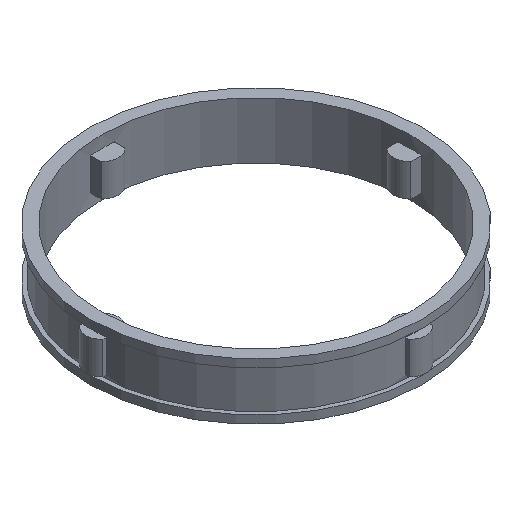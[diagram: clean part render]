
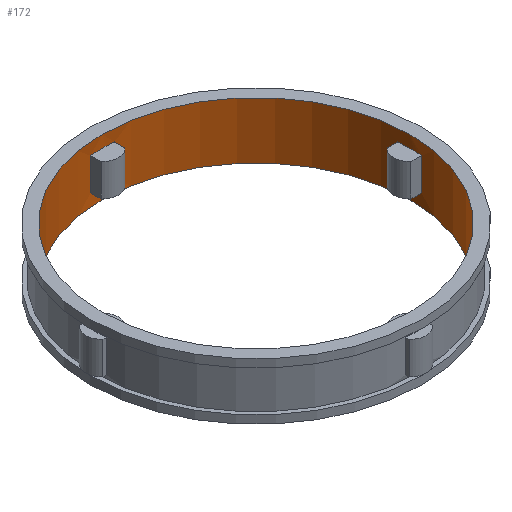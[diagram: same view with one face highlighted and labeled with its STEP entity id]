
A CAD part, isometric view. The second image highlights one B-rep face of the part: STEP entity #172.
In plain terms, the highlighted cylindrical face has radius 19 mm (diameter 38 mm), a full revolution.
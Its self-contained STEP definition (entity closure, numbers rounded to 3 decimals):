
#172=ADVANCED_FACE('',(#365,#366,#367,#368,#369,#370),#220,.F.);
#220=CYLINDRICAL_SURFACE('',#893,19.);
#239=LINE('',#1247,#303);
#240=LINE('',#1251,#304);
#241=LINE('',#1255,#305);
#242=LINE('',#1259,#306);
#243=LINE('',#1263,#307);
#244=LINE('',#1267,#308);
#245=LINE('',#1268,#309);
#246=LINE('',#1273,#310);
#303=VECTOR('',#998,1.);
#304=VECTOR('',#1001,1.);
#305=VECTOR('',#1004,1.);
#306=VECTOR('',#1007,1.);
#307=VECTOR('',#1010,1.);
#308=VECTOR('',#1013,1.);
#309=VECTOR('',#1014,1.);
#310=VECTOR('',#1017,1.);
#365=FACE_BOUND('',#389,.T.);
#366=FACE_BOUND('',#390,.T.);
#367=FACE_BOUND('',#391,.T.);
#368=FACE_BOUND('',#392,.T.);
#369=FACE_BOUND('',#393,.T.);
#370=FACE_BOUND('',#394,.T.);
#389=EDGE_LOOP('',(#465));
#390=EDGE_LOOP('',(#466));
#391=EDGE_LOOP('',(#467,#468,#469,#470));
#392=EDGE_LOOP('',(#471,#472,#473,#474));
#393=EDGE_LOOP('',(#475,#476,#477,#478));
#394=EDGE_LOOP('',(#479,#480,#481,#482));
#465=ORIENTED_EDGE('',*,*,#745,.F.);
#466=ORIENTED_EDGE('',*,*,#746,.T.);
#467=ORIENTED_EDGE('',*,*,#747,.F.);
#468=ORIENTED_EDGE('',*,*,#748,.T.);
#469=ORIENTED_EDGE('',*,*,#749,.T.);
#470=ORIENTED_EDGE('',*,*,#750,.T.);
#471=ORIENTED_EDGE('',*,*,#751,.F.);
#472=ORIENTED_EDGE('',*,*,#752,.T.);
#473=ORIENTED_EDGE('',*,*,#753,.T.);
#474=ORIENTED_EDGE('',*,*,#754,.T.);
#475=ORIENTED_EDGE('',*,*,#755,.F.);
#476=ORIENTED_EDGE('',*,*,#756,.T.);
#477=ORIENTED_EDGE('',*,*,#757,.T.);
#478=ORIENTED_EDGE('',*,*,#758,.T.);
#479=ORIENTED_EDGE('',*,*,#759,.F.);
#480=ORIENTED_EDGE('',*,*,#760,.T.);
#481=ORIENTED_EDGE('',*,*,#761,.F.);
#482=ORIENTED_EDGE('',*,*,#762,.F.);
#673=VERTEX_POINT('',#1241);
#674=VERTEX_POINT('',#1243);
#675=VERTEX_POINT('',#1245);
#676=VERTEX_POINT('',#1246);
#677=VERTEX_POINT('',#1248);
#678=VERTEX_POINT('',#1250);
#679=VERTEX_POINT('',#1253);
#680=VERTEX_POINT('',#1254);
#681=VERTEX_POINT('',#1256);
#682=VERTEX_POINT('',#1258);
#683=VERTEX_POINT('',#1261);
#684=VERTEX_POINT('',#1262);
#685=VERTEX_POINT('',#1264);
#686=VERTEX_POINT('',#1266);
#687=VERTEX_POINT('',#1269);
#688=VERTEX_POINT('',#1270);
#689=VERTEX_POINT('',#1272);
#690=VERTEX_POINT('',#1274);
#745=EDGE_CURVE('',#673,#673,#841,.T.);
#746=EDGE_CURVE('',#674,#674,#842,.T.);
#747=EDGE_CURVE('',#675,#676,#843,.T.);
#748=EDGE_CURVE('',#675,#677,#239,.T.);
#749=EDGE_CURVE('',#677,#678,#844,.T.);
#750=EDGE_CURVE('',#678,#676,#240,.T.);
#751=EDGE_CURVE('',#679,#680,#845,.T.);
#752=EDGE_CURVE('',#679,#681,#241,.T.);
#753=EDGE_CURVE('',#681,#682,#846,.T.);
#754=EDGE_CURVE('',#682,#680,#242,.T.);
#755=EDGE_CURVE('',#683,#684,#847,.T.);
#756=EDGE_CURVE('',#683,#685,#243,.T.);
#757=EDGE_CURVE('',#685,#686,#848,.T.);
#758=EDGE_CURVE('',#686,#684,#244,.T.);
#759=EDGE_CURVE('',#687,#688,#245,.T.);
#760=EDGE_CURVE('',#687,#689,#849,.T.);
#761=EDGE_CURVE('',#690,#689,#246,.T.);
#762=EDGE_CURVE('',#688,#690,#850,.T.);
#841=CIRCLE('',#883,19.);
#842=CIRCLE('',#884,19.);
#843=CIRCLE('',#885,19.);
#844=CIRCLE('',#886,19.);
#845=CIRCLE('',#887,19.);
#846=CIRCLE('',#888,19.);
#847=CIRCLE('',#889,19.);
#848=CIRCLE('',#890,19.);
#849=CIRCLE('',#891,19.);
#850=CIRCLE('',#892,19.);
#883=AXIS2_PLACEMENT_3D('',#1240,#992,#993);
#884=AXIS2_PLACEMENT_3D('',#1242,#994,#995);
#885=AXIS2_PLACEMENT_3D('',#1244,#996,#997);
#886=AXIS2_PLACEMENT_3D('',#1249,#999,#1000);
#887=AXIS2_PLACEMENT_3D('',#1252,#1002,#1003);
#888=AXIS2_PLACEMENT_3D('',#1257,#1005,#1006);
#889=AXIS2_PLACEMENT_3D('',#1260,#1008,#1009);
#890=AXIS2_PLACEMENT_3D('',#1265,#1011,#1012);
#891=AXIS2_PLACEMENT_3D('',#1271,#1015,#1016);
#892=AXIS2_PLACEMENT_3D('',#1275,#1018,#1019);
#893=AXIS2_PLACEMENT_3D('',#1276,#1020,#1021);
#992=DIRECTION('',(0.,0.,1.));
#993=DIRECTION('',(1.,0.,0.));
#994=DIRECTION('',(0.,0.,1.));
#995=DIRECTION('',(1.,0.,0.));
#996=DIRECTION('',(0.,0.,1.));
#997=DIRECTION('',(1.,0.,0.));
#998=DIRECTION('',(0.,0.,-1.));
#999=DIRECTION('',(0.,0.,1.));
#1000=DIRECTION('',(1.,0.,0.));
#1001=DIRECTION('',(0.,0.,1.));
#1002=DIRECTION('',(0.,0.,1.));
#1003=DIRECTION('',(1.,0.,0.));
#1004=DIRECTION('',(0.,0.,-1.));
#1005=DIRECTION('',(0.,0.,1.));
#1006=DIRECTION('',(1.,0.,0.));
#1007=DIRECTION('',(0.,0.,1.));
#1008=DIRECTION('',(0.,0.,1.));
#1009=DIRECTION('',(1.,0.,0.));
#1010=DIRECTION('',(0.,0.,-1.));
#1011=DIRECTION('',(0.,0.,1.));
#1012=DIRECTION('',(1.,0.,0.));
#1013=DIRECTION('',(0.,0.,1.));
#1014=DIRECTION('',(0.,0.,-1.));
#1015=DIRECTION('',(0.,0.,-1.));
#1016=DIRECTION('',(-1.,0.,0.));
#1017=DIRECTION('',(0.,0.,1.));
#1018=DIRECTION('',(0.,0.,-1.));
#1019=DIRECTION('',(-1.,0.,0.));
#1020=DIRECTION('',(0.,0.,-1.));
#1021=DIRECTION('',(-1.,0.,0.));
#1240=CARTESIAN_POINT('',(0.,0.,0.));
#1241=CARTESIAN_POINT('',(19.,0.,0.));
#1242=CARTESIAN_POINT('',(0.,0.,7.));
#1243=CARTESIAN_POINT('',(19.,0.,7.));
#1244=CARTESIAN_POINT('',(0.,0.,5.5));
#1245=CARTESIAN_POINT('',(18.943,-1.471,5.5));
#1246=CARTESIAN_POINT('',(18.943,1.471,5.5));
#1247=CARTESIAN_POINT('',(18.943,-1.471,7.));
#1248=CARTESIAN_POINT('',(18.943,-1.471,1.5));
#1249=CARTESIAN_POINT('',(0.,0.,1.5));
#1250=CARTESIAN_POINT('',(18.943,1.471,1.5));
#1251=CARTESIAN_POINT('',(18.943,1.471,7.));
#1252=CARTESIAN_POINT('',(0.,0.,5.5));
#1253=CARTESIAN_POINT('',(1.471,18.943,5.5));
#1254=CARTESIAN_POINT('',(-1.471,18.943,5.5));
#1255=CARTESIAN_POINT('',(1.471,18.943,7.));
#1256=CARTESIAN_POINT('',(1.471,18.943,1.5));
#1257=CARTESIAN_POINT('',(0.,0.,1.5));
#1258=CARTESIAN_POINT('',(-1.471,18.943,1.5));
#1259=CARTESIAN_POINT('',(-1.471,18.943,7.));
#1260=CARTESIAN_POINT('',(0.,0.,5.5));
#1261=CARTESIAN_POINT('',(-18.943,1.471,5.5));
#1262=CARTESIAN_POINT('',(-18.943,-1.471,5.5));
#1263=CARTESIAN_POINT('',(-18.943,1.471,7.));
#1264=CARTESIAN_POINT('',(-18.943,1.471,1.5));
#1265=CARTESIAN_POINT('',(0.,0.,1.5));
#1266=CARTESIAN_POINT('',(-18.943,-1.471,1.5));
#1267=CARTESIAN_POINT('',(-18.943,-1.471,7.));
#1268=CARTESIAN_POINT('',(1.471,-18.943,7.));
#1269=CARTESIAN_POINT('',(1.471,-18.943,5.5));
#1270=CARTESIAN_POINT('',(1.471,-18.943,1.5));
#1271=CARTESIAN_POINT('',(0.,0.,5.5));
#1272=CARTESIAN_POINT('',(-1.471,-18.943,5.5));
#1273=CARTESIAN_POINT('',(-1.471,-18.943,7.));
#1274=CARTESIAN_POINT('',(-1.471,-18.943,1.5));
#1275=CARTESIAN_POINT('',(0.,0.,1.5));
#1276=CARTESIAN_POINT('',(0.,0.,7.));
